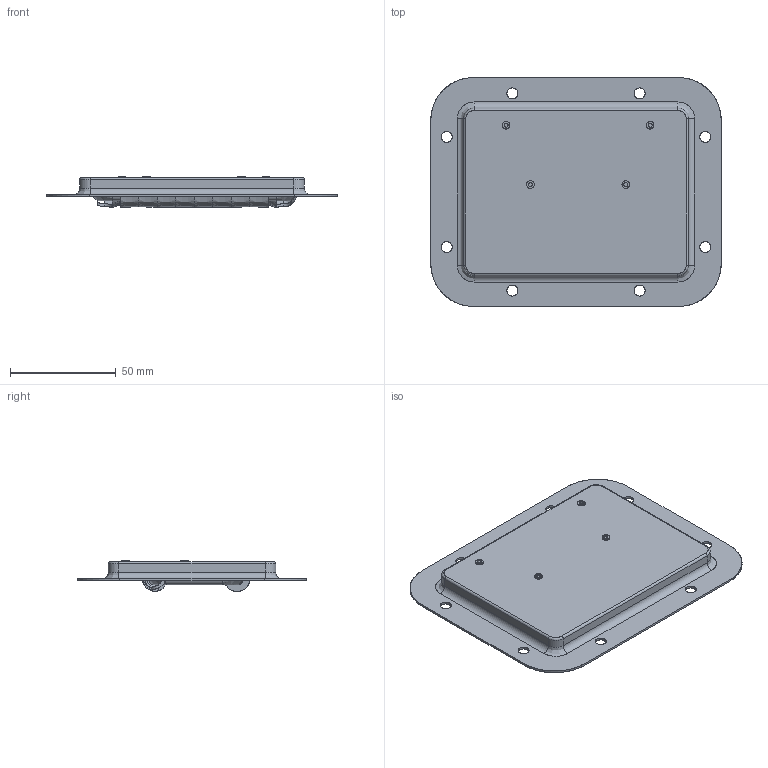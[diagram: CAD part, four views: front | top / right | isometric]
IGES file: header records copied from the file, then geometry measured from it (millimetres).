
Start section: SolidWorks IGES FILE using analytic representation for surfaces
Global section: file name: C:\Documents and Settings\lecoutey\Bureau\PR 1305\PR 1305.IGS; native system: SolidWorks 2004 by SolidWorks Corporation; preprocessor: Version 5.3; author: lecoutey; date: 050408.171907; units: millimetre
Bounding box: 137 x 108 x 14.65 mm (x, y, z)
Surface area: 58196.2 mm2 (no closed solid volume)
Topology: 0 solids, 0 shells, 488 faces, 6749 edges, 6737 vertices
Faces by surface type: bspline 246, revolution 242
